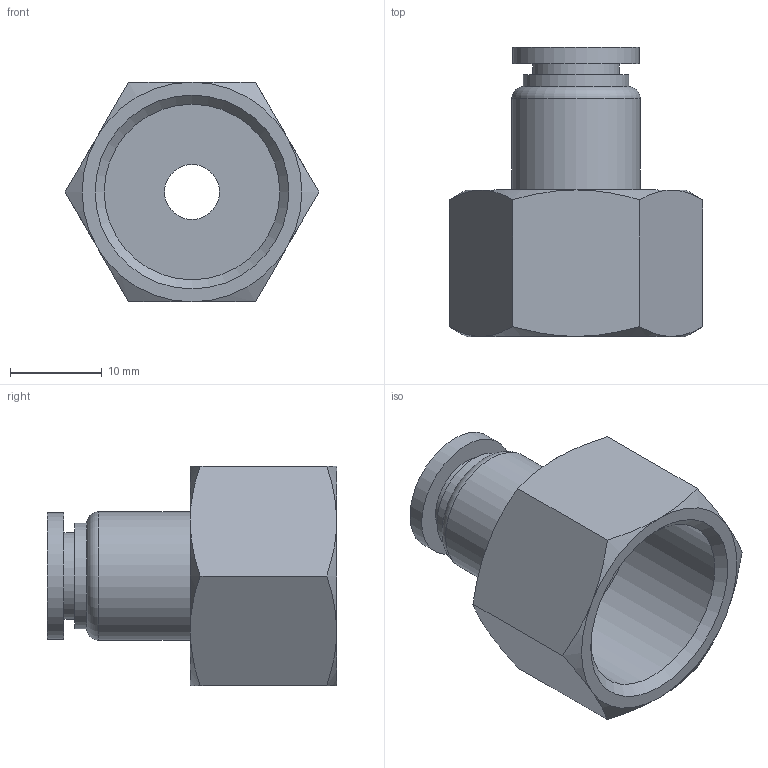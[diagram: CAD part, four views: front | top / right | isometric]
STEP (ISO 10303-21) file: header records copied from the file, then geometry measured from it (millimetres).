
FILE_DESCRIPTION(/* description */ (''),/* implementation_level */ '2;1');
FILE_NAME(/* name */ 'S:\_Tecnico\ArchivioUT\_Disegni3D ingombri\DISEGNI 3D per ingombri\RP\RP 52\RP521208.stp',/* time_stamp */ '2019-07-29T16:48:56+02:00',/* author */ ('ufficiotecnico3'),/* organization */ (''),/* preprocessor_version */ 'ST-DEVELOPER v18',/* originating_system */ 'Autodesk Inventor 2020',/* authorisation */ '');
FILE_SCHEMA (('AUTOMOTIVE_DESIGN { 1 0 10303 214 3 1 1 }'));
Length unit declared in the file: millimetre
Products named in the file (1): RP521208
Bounding box: 27.71 x 31.6 x 24 mm (x, y, z)
Volume: 5228.9 mm3; surface area: 4256.9 mm2
Topology: 1 solids, 1 shells, 35 faces, 80 edges, 52 vertices
Faces by surface type: cone 14, plane 13, cylinder 7, torus 1
Full cylindrical faces by diameter (mm): 6 x1, 8 x1, 9.5 x1, 11.5 x1, 13.8 x1, 14 x1, 19.172 x1
Entity records: 1024 total; most frequent: CARTESIAN_POINT 216, DIRECTION 169, ORIENTED_EDGE 160, EDGE_CURVE 80, AXIS2_PLACEMENT_3D 77, VERTEX_POINT 52, EDGE_LOOP 42, CIRCLE 41
